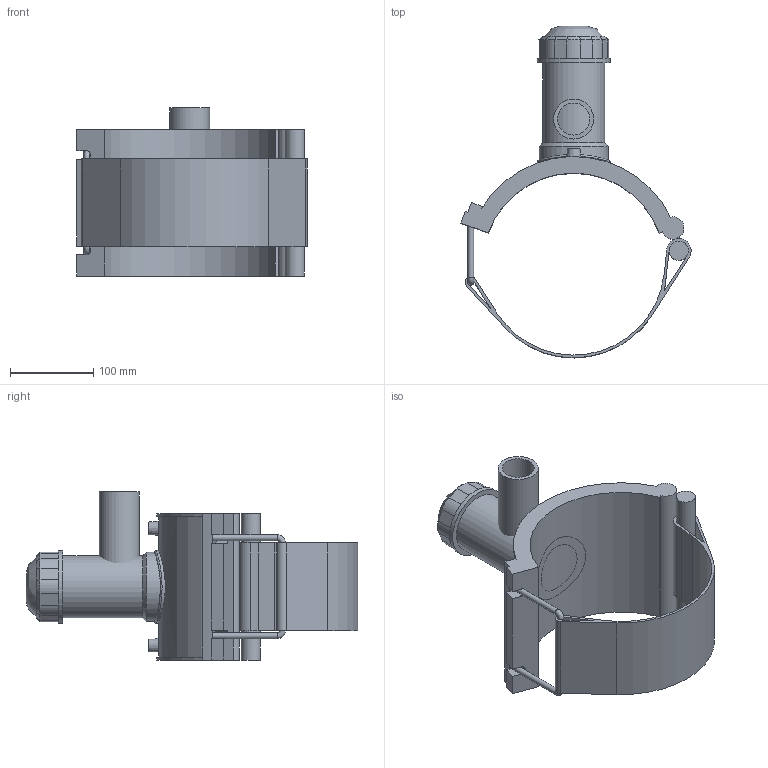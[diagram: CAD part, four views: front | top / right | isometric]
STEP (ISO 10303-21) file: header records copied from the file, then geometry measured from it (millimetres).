
FILE_DESCRIPTION(/* description */ ('PLASSON TAPPING SADDLE 8''''IPS x 1 1/2''''IPS'),/* implementation_level */ '2;1');
FILE_NAME(/* name */ 'C:\Dropbox\KIMPROJECTS-Inventor 2019\99-16-3568-Processing Inch\ASTM ElectroFusion 2021\5963BBP_5963BUP\5963BBP3080015.ipt.stp',/* time_stamp */ '2021-08-30T09:57:33+03:00',/* author */ ('KIM'),/* organization */ (''),/* preprocessor_version */ 'ST-DEVELOPER v17.2',/* originating_system */ 'Autodesk Inventor 2019',/* authorisation */ '');
FILE_SCHEMA (('AUTOMOTIVE_DESIGN { 1 0 10303 214 3 1 1 }'));
Length unit declared in the file: inch
Products named in the file (1): 5963BBP3080015
Bounding box: 276.84 x 399.02 x 202.06 mm (x, y, z)
Volume: 1853855.1 mm3; surface area: 375967.9 mm2
Topology: 3 solids, 3 shells, 124 faces, 315 edges, 205 vertices
Faces by surface type: plane 69, cylinder 40, cone 11, torus 2, bspline 2
Full cylindrical faces by diameter (mm): 4 x2, 6.998 x2, 10 x2, 23.048 x1, 38.48 x1, 48.1 x1, 61.236 x1, 74.358 x1, 83.106 x1, 87.48 x2
Entity records: 4260 total; most frequent: CARTESIAN_POINT 1120, DIRECTION 663, ORIENTED_EDGE 632, EDGE_CURVE 316, AXIS2_PLACEMENT_3D 241, VERTEX_POINT 205, LINE 181, VECTOR 181
